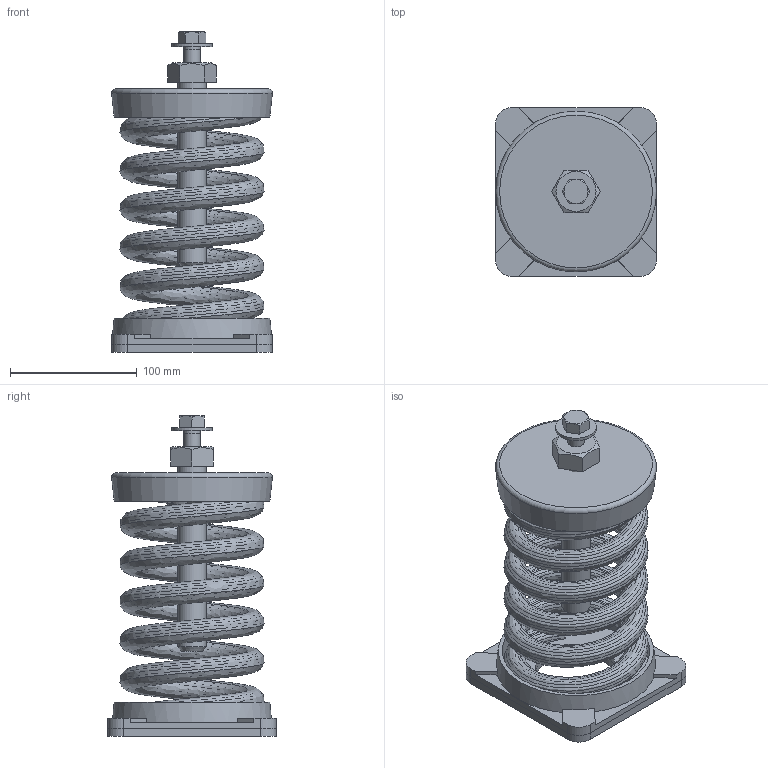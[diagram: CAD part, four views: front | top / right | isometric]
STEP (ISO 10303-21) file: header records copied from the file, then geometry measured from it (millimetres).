
FILE_DESCRIPTION(/* description */ (''),/* implementation_level */ '2;1');
FILE_NAME(/* name */ 'C:\001_Work\Designs\SLF ASSEMBLIES\SLF-109.stp',/* time_stamp */ '2016-01-10T13:34:45-05:00',/* author */ ('rramoutar'),/* organization */ ('Mason Industries Inc.'),/* preprocessor_version */ 'ST-DEVELOPER v15.6',/* originating_system */ 'Autodesk Inventor 2015',/* authorisation */ '');
FILE_SCHEMA (('CONFIG_CONTROL_DESIGN'));
Length unit declared in the file: inch
Products named in the file (1): SLF-109
Bounding box: 127.03 x 133.35 x 253.09 mm (x, y, z)
Volume: 465489.4 mm3; surface area: 329995.8 mm2
Topology: 7 solids, 7 shells, 150 faces, 365 edges, 238 vertices
Faces by surface type: plane 87, cylinder 25, bspline 22, cone 14, torus 2
Full cylindrical faces by diameter (mm): 9.525 x4, 12.7 x2, 13.487 x1, 19.05 x1, 19.447 x1, 22.225 x1, 31.75 x1, 63.5 x2, 116.681 x2
Entity records: 14525 total; most frequent: CARTESIAN_POINT 11112, ORIENTED_EDGE 666, DIRECTION 598, EDGE_CURVE 333, VERTEX_POINT 231, AXIS2_PLACEMENT_3D 222, EDGE_LOOP 194, STYLED_ITEM 157
